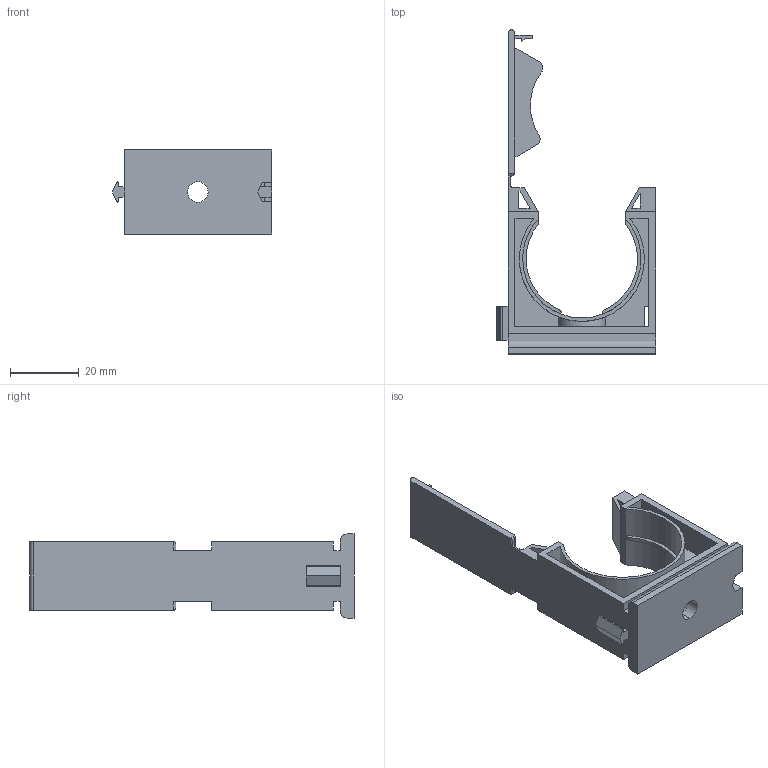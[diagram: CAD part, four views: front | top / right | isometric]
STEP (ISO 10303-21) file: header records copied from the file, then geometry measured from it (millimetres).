
FILE_DESCRIPTION (( 'STEP AP203' ), '1' );
FILE_NAME ('WQSC-AD34.5.STEP', '2016-03-25T02:49:39', ( '' ), ( '' ), 'SwSTEP 2.0', 'SolidWorks 2010', '' );
FILE_SCHEMA (( 'CONFIG_CONTROL_DESIGN' ));
Length unit declared in the file: millimetre
Products named in the file (1): WQSC-AD34.5
Bounding box: 46.4 x 94.5 x 24.5 mm (x, y, z)
Volume: 15035 mm3; surface area: 14285.9 mm2
Topology: 1 solids, 1 shells, 141 faces, 400 edges, 262 vertices
Faces by surface type: plane 98, cylinder 41, torus 2
Entity records: 4787 total; most frequent: CARTESIAN_POINT 981, ORIENTED_EDGE 800, DIRECTION 750, EDGE_CURVE 400, LINE 308, VECTOR 308, VERTEX_POINT 262, AXIS2_PLACEMENT_3D 221
